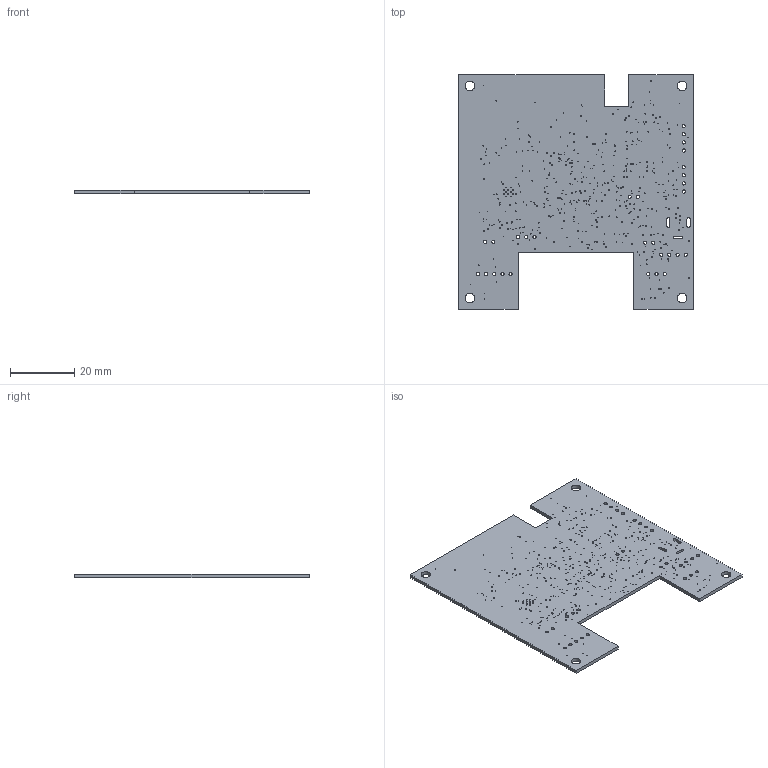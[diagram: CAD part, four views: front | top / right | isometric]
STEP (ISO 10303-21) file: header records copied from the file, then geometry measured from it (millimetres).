
FILE_DESCRIPTION(('KiCad electronic assembly'),'2;1');
FILE_NAME('voice-mainboard-board-only.step','2026-11-27T08:41:35',( 'Pcbnew'),('Kicad'),'Open CASCADE STEP processor 7.9', 'KiCad to STEP converter','Unknown');
FILE_SCHEMA(('AUTOMOTIVE_DESIGN { 1 0 10303 214 1 1 1 1 }'));
Length unit declared in the file: millimetre
Products named in the file (2): voice-mainboard-board-only 1; voice_mainboard_a18_2layer_PCB
Assembly tree (1 placements, depth 2):
  voice-mainboard-board-only 1
    voice_mainboard_a18_2layer_PCB
Bounding box: 73 x 73 x 1.11 mm (x, y, z)
Volume: 5039.3 mm3; surface area: 9981.6 mm2
Topology: 1 solids, 1 shells, 535 faces, 1599 edges, 1066 vertices
Faces by surface type: cylinder 515, plane 20
Full cylindrical faces by diameter (mm): 0.2 x425, 0.3 x51, 1 x29, 3 x4
Entity records: 20728 total; most frequent: DIRECTION 3703, CARTESIAN_POINT 3202, ORIENTED_EDGE 3198, EDGE_CURVE 1599, AXIS2_PLACEMENT_3D 1567, FACE_BOUND 1559, EDGE_LOOP 1559, VERTEX_POINT 1066
